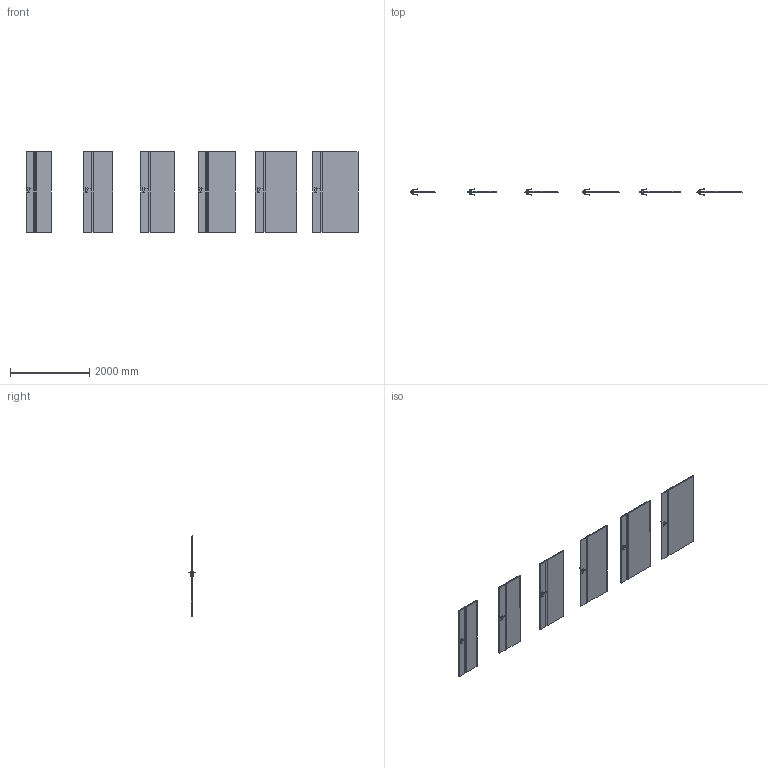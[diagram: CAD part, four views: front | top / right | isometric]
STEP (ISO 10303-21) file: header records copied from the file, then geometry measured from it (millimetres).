
FILE_DESCRIPTION(/* description */ (''),/* implementation_level */ '2;1');
FILE_NAME(/* name */ '049658_A_2-Skrzydło FOCUS model 5.A_ polska norma _PN__ przylgowe..stp',/* time_stamp */ '2024-01-31T15:47:36+01:00',/* author */ (''),/* organization */ (''),/* preprocessor_version */ 'ST-DEVELOPER v16',/* originating_system */ 'SIEMENS PLM Software NX 11.0',/* authorisation */ '');
FILE_SCHEMA (('AUTOMOTIVE_DESIGN { 1 0 10303 214 3 1 1 1 }'));
Length unit declared in the file: millimetre
Products named in the file (1): bkni73A0D99A4l46
Bounding box: 8394 x 153.27 x 2030 mm (x, y, z)
Volume: 418378435.8 mm3; surface area: 23500971.2 mm2
Topology: 30 solids, 30 shells, 1260 faces, 3072 edges, 1752 vertices
Faces by surface type: plane 540, cylinder 360, bspline 192, sphere 168
Entity records: 42232 total; most frequent: CARTESIAN_POINT 14341, ORIENTED_EDGE 5808, DIRECTION 5594, EDGE_CURVE 2904, AXIS2_PLACEMENT_3D 1981, VERTEX_POINT 1752, LINE 1632, VECTOR 1632
